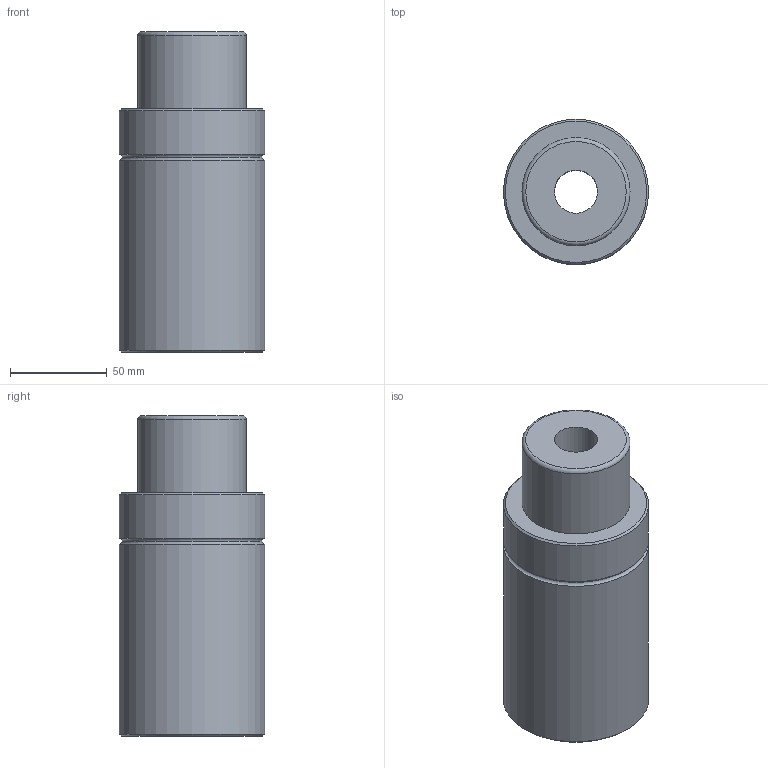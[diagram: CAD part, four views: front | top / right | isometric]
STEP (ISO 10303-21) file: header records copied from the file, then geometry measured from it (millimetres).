
FILE_DESCRIPTION(('FreeCAD Model'),'2;1');
FILE_NAME('Open CASCADE Shape Model','2024-11-14T08:47:49',('Author'),( ''),'Open CASCADE STEP processor 7.6','FreeCAD','Unknown');
FILE_SCHEMA(('AUTOMOTIVE_DESIGN { 1 0 10303 214 1 1 1 1 }'));
Length unit declared in the file: millimetre
Products named in the file (5): TPHC600x50; Part001; Fillet; Part009; Cut001
Assembly tree (4 placements, depth 3):
  TPHC600x50
    Part001
      Fillet
    Part009
      Cut001
Bounding box: 75.2 x 75.2 x 166 mm (x, y, z)
Volume: 590109.2 mm3; surface area: 61605.3 mm2
Topology: 2 solids, 2 shells, 24 faces, 39 edges, 24 vertices
Faces by surface type: cylinder 10, plane 9, torus 3, cone 2
Full cylindrical faces by diameter (mm): 6 x5, 22.4 x2, 56 x1, 75.2 x2
Entity records: 672 total; most frequent: DIRECTION 124, CARTESIAN_POINT 92, ORIENTED_EDGE 78, AXIS2_PLACEMENT_3D 56, EDGE_CURVE 39, FACE_BOUND 33, EDGE_LOOP 33, CIRCLE 27
